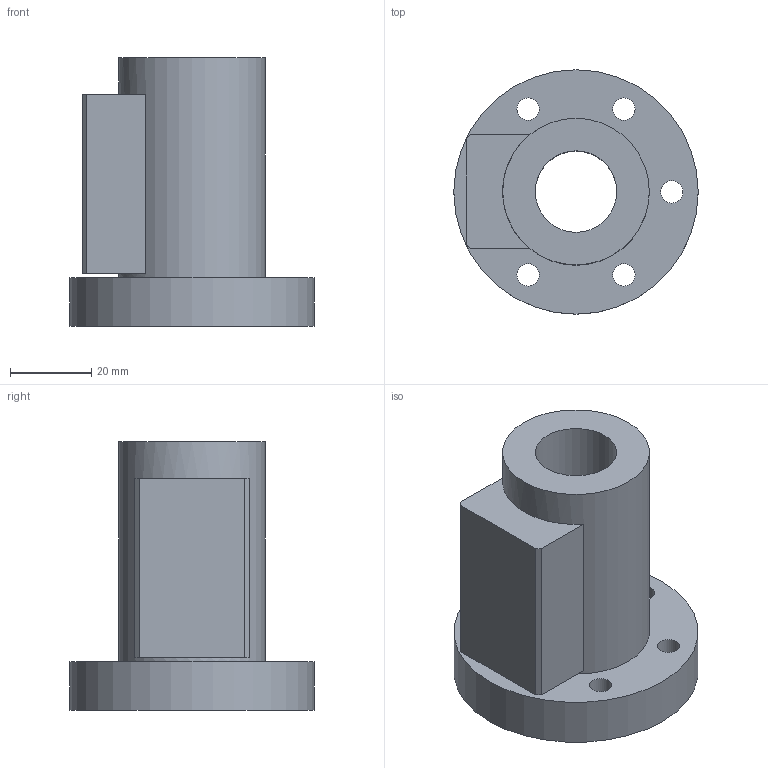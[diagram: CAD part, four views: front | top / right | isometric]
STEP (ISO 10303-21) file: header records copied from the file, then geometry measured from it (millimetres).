
FILE_DESCRIPTION(/* description */ (''),/* implementation_level */ '2;1');
FILE_NAME(/* name */ '20-20A1',/* time_stamp */ '2006-06-16T09:33:52+08:00',/* author */ (''),/* organization */ (''),/* preprocessor_version */ 'ST-DEVELOPER v9',/* originating_system */ 'UGS - NX 4.0',/* authorisation */ '');
FILE_SCHEMA (('CONFIG_CONTROL_DESIGN'));
Length unit declared in the file: millimetre
Products named in the file (1): 20-20A1
Bounding box: 60 x 60 x 66 mm (x, y, z)
Volume: 78985.5 mm3; surface area: 20452.4 mm2
Topology: 1 solids, 1 shells, 28 faces, 61 edges, 42 vertices
Faces by surface type: plane 15, cylinder 13
Full cylindrical faces by diameter (mm): 5.5 x5, 9.5 x5, 20 x1, 36 x1, 60 x1
Entity records: 794 total; most frequent: DIRECTION 130, CARTESIAN_POINT 111, ORIENTED_EDGE 88, EDGE_LOOP 60, AXIS2_PLACEMENT_3D 57, FACE_BOUND 45, EDGE_CURVE 44, VERTEX_POINT 38
